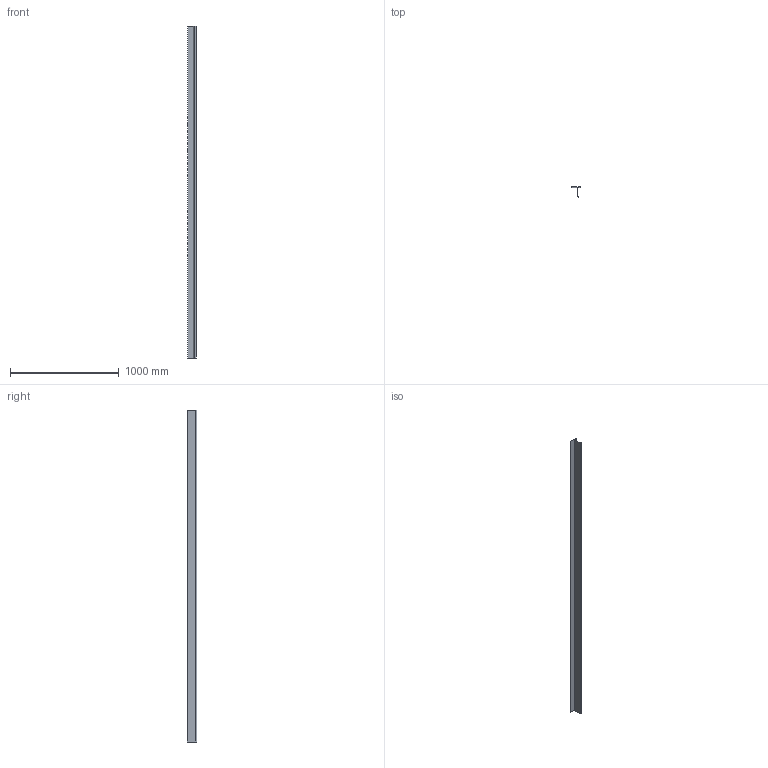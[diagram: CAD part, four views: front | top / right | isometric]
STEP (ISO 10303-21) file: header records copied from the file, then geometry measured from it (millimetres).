
FILE_DESCRIPTION (( 'STEP AP203' ), '1' );
FILE_NAME ('M58AB.3.STEP', '2018-06-15T19:24:47', ( 'Michael Moliner' ), ( '' ), 'SwSTEP 2.0', 'SolidWorks 2018', '' );
FILE_SCHEMA (( 'CONFIG_CONTROL_DESIGN' ));
Length unit declared in the file: inch
Products named in the file (2): M58AB.3
Bounding box: 76.1 x 87.68 x 3048 mm (x, y, z)
Volume: 316178.5 mm3; surface area: 1248101.4 mm2
Topology: 1 solids, 1 shells, 20 faces, 54 edges, 36 vertices
Faces by surface type: plane 14, cylinder 6
Entity records: 787 total; most frequent: CARTESIAN_POINT 112, DIRECTION 110, ORIENTED_EDGE 108, EDGE_CURVE 54, LINE 42, VECTOR 42, VERTEX_POINT 36, AXIS2_PLACEMENT_3D 34
